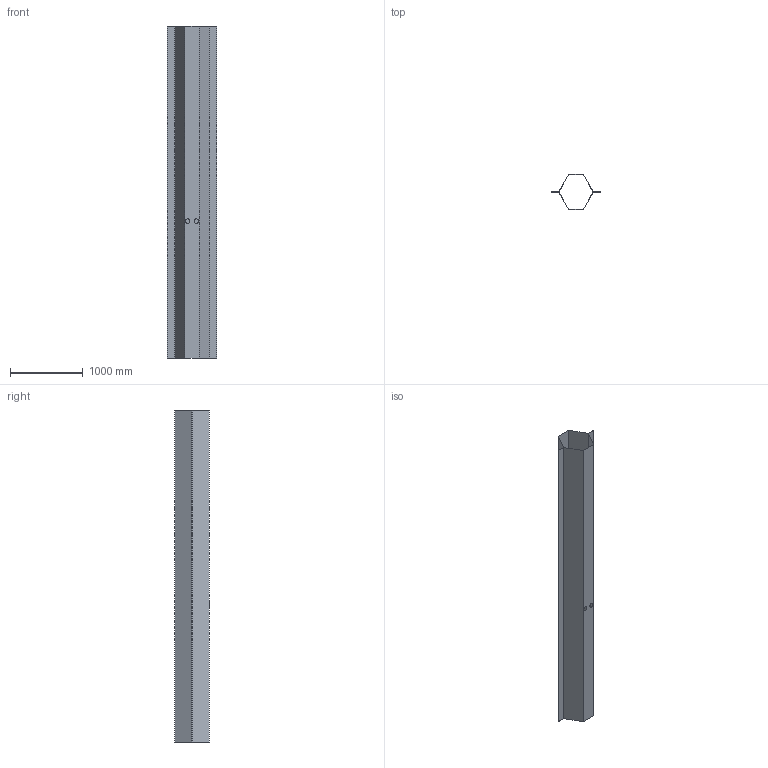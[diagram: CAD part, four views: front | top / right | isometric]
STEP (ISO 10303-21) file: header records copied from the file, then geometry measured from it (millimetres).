
FILE_DESCRIPTION(('CATIA V5 STEP Exchange'),'2;1');
FILE_NAME('C:\Users\andres.garcia\OneDrive - IQS\ASIGNATURAS\DAO\EXF\EXF-22223c\2inicio\Ej06-GARCIA_Andres.stp','2023-02-26T12:43:30+00:00',('none'),('none'),'CATIA Version 5-6 Release 2013 SP6','CATIA V5 STEP AP203','none');
FILE_SCHEMA(('CONFIG_CONTROL_DESIGN'));
Length unit declared in the file: millimetre
Products named in the file (1): Ej06-GARCIA_Andres
Bounding box: 675.97 x 480 x 4560 mm (x, y, z)
Surface area: 8676100.5 mm2 (no closed solid volume)
Topology: 0 solids, 2 shells, 10 faces, 36 edges, 28 vertices
Faces by surface type: plane 10
Entity records: 405 total; most frequent: CARTESIAN_POINT 73, DIRECTION 52, ORIENTED_EDGE 44, EDGE_CURVE 36, VECTOR 32, LINE 32, VERTEX_POINT 28, AXIS2_PLACEMENT_3D 13
